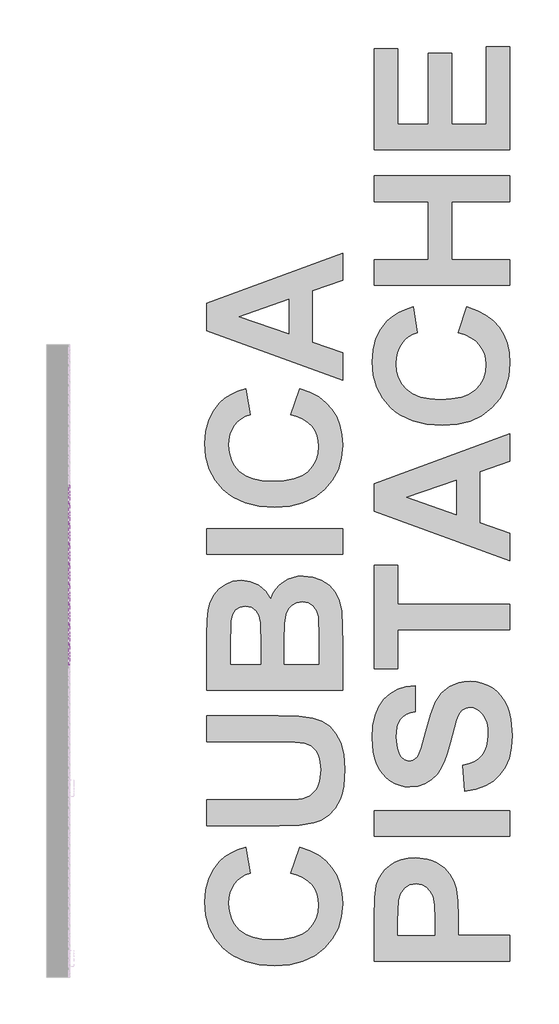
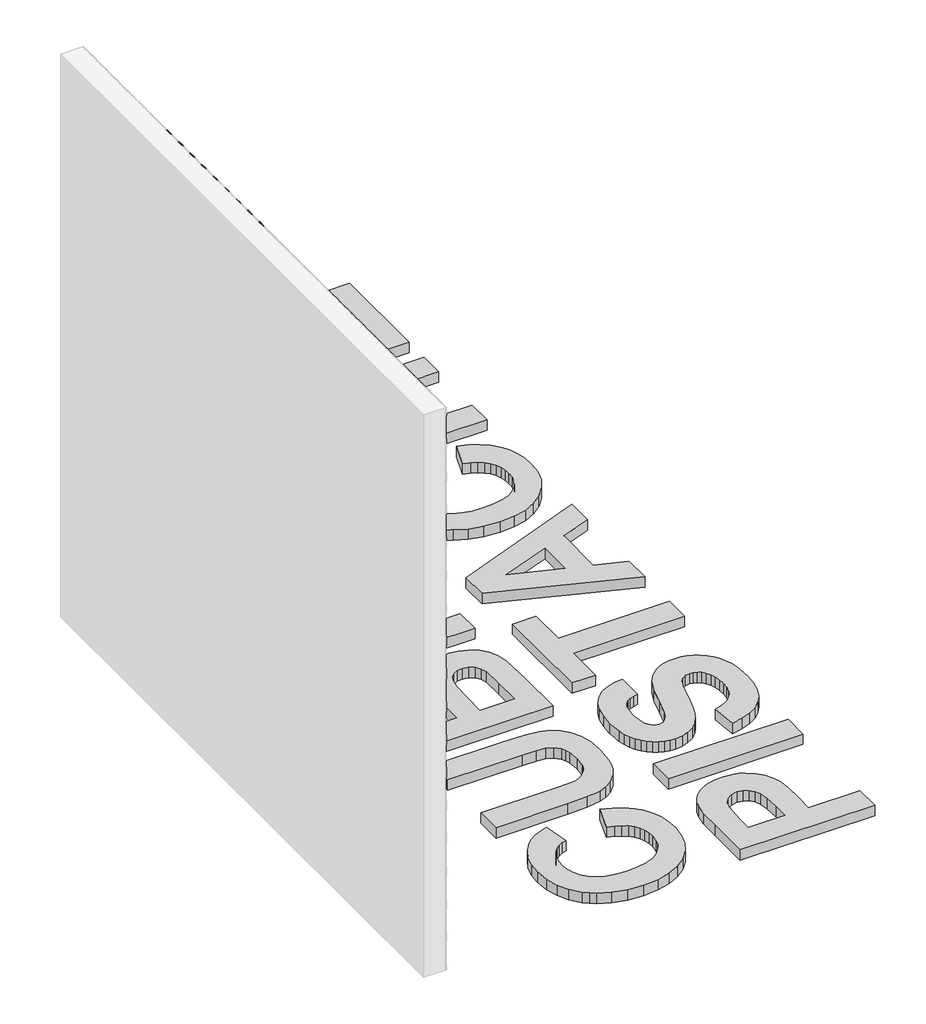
# One storey, part 92 of 121: 91 proxies.
"""IFC4 building model written with IfcOpenShell, lengths in millimetres."""

from ifc_helpers import new_model, si_unit, origin, origin_with_axes, place, context, project, spatial, polyline, outline, extrude, transform, mapped, element, save
from components import generic_models_b2b2c5c1, generic_models_9bf73f6f, generic_models_5d175859, generic_models_95f85f1d, generic_models_336a48c1, generic_models_3c04e8e5, generic_models_01361f29, generic_models_0bb79e7c, generic_models_61989c10, generic_models_b652511d

model = new_model("IFC4")

# Units and contexts
model_context = context("Model", 3, world=origin())
ifc_project = project(units=[si_unit("LENGTHUNIT", "METRE", prefix="MILLI")], contexts=[model_context])

# Site, building, storey
site = spatial("IfcSite", under=ifc_project)
building = spatial("IfcBuilding", under=site)
storey = spatial("IfcBuildingStorey", under=building, Name="PORTOBELLO - SHOWROOM", Elevation=0.0)

# Proxies
placement = place(None, origin())
generic_models_shape = generic_models_b2b2c5c1(model_context)
element("IfcBuildingElementProxy", 1, Name="PBSHOP - CUBICA PISTACHE 4,8X8,3 : CUBICA PISTACHE - POSIÇÃO 01", ObjectType="PBSHOP - CUBICA PISTACHE 4,8X8,3 : CUBICA PISTACHE - POSIÇÃO 01", at=placement, inside=storey, context=model_context, shape_type="MappedRepresentation", body=[
    mapped(generic_models_shape, transform((150369.5341846, 15067.5294767, 39.4221668), x_axis=(0.0, 1.0, 0.0), y_axis=(0.0, 0.0, 1.0), z_axis=(1.0, 0.0, 0.0))),
])
element("IfcBuildingElementProxy", 2, Name="PBSHOP - CUBICA PISTACHE 4,8X8,3 : CUBICA PISTACHE - POSIÇÃO 01", ObjectType="PBSHOP - CUBICA PISTACHE 4,8X8,3 : CUBICA PISTACHE - POSIÇÃO 01", at=placement, inside=storey, context=model_context, shape_type="MappedRepresentation", body=[
    mapped(generic_models_shape, transform((150369.5341846, 15158.3687459, 39.4221668), x_axis=(0.0, 1.0, 0.0), y_axis=(0.0, 0.0, 1.0), z_axis=(1.0, 0.0, 0.0))),
])
element("IfcBuildingElementProxy", 3, Name="PBSHOP - CUBICA PISTACHE 4,8X8,3 : CUBICA PISTACHE - POSIÇÃO 01", ObjectType="PBSHOP - CUBICA PISTACHE 4,8X8,3 : CUBICA PISTACHE - POSIÇÃO 01", at=placement, inside=storey, context=model_context, shape_type="MappedRepresentation", body=[
    mapped(generic_models_shape, transform((150369.5341846, 15249.2080152, 39.4221668), x_axis=(0.0, 1.0, 0.0), y_axis=(0.0, 0.0, 1.0), z_axis=(1.0, 0.0, 0.0))),
])
element("IfcBuildingElementProxy", 4, Name="PBSHOP - CUBICA PISTACHE 4,8X8,3 : CUBICA PISTACHE - POSIÇÃO 01", ObjectType="PBSHOP - CUBICA PISTACHE 4,8X8,3 : CUBICA PISTACHE - POSIÇÃO 01", at=placement, inside=storey, context=model_context, shape_type="MappedRepresentation", body=[
    mapped(generic_models_shape, transform((150369.5341846, 15340.0472844, 39.4221668), x_axis=(0.0, 1.0, 0.0), y_axis=(0.0, 0.0, 1.0), z_axis=(1.0, 0.0, 0.0))),
])
element("IfcBuildingElementProxy", 5, Name="PBSHOP - CUBICA PISTACHE 4,8X8,3 : CUBICA PISTACHE - POSIÇÃO 01", ObjectType="PBSHOP - CUBICA PISTACHE 4,8X8,3 : CUBICA PISTACHE - POSIÇÃO 01", at=placement, inside=storey, context=model_context, shape_type="MappedRepresentation", body=[
    mapped(generic_models_shape, transform((150369.5341846, 15430.8865536, 39.4221668), x_axis=(0.0, 1.0, 0.0), y_axis=(0.0, 0.0, 1.0), z_axis=(1.0, 0.0, 0.0))),
])
element("IfcBuildingElementProxy", 6, Name="PBSHOP - CUBICA PISTACHE 4,8X8,3 : CUBICA PISTACHE - POSIÇÃO 01", ObjectType="PBSHOP - CUBICA PISTACHE 4,8X8,3 : CUBICA PISTACHE - POSIÇÃO 01", at=placement, inside=storey, context=model_context, shape_type="MappedRepresentation", body=[
    mapped(generic_models_shape, transform((150369.5341846, 15521.7258229, 39.4221668), x_axis=(0.0, 1.0, 0.0), y_axis=(0.0, 0.0, 1.0), z_axis=(1.0, 0.0, 0.0))),
])
element("IfcBuildingElementProxy", 7, Name="PBSHOP - CUBICA PISTACHE 4,8X8,3 : CUBICA PISTACHE - POSIÇÃO 01", ObjectType="PBSHOP - CUBICA PISTACHE 4,8X8,3 : CUBICA PISTACHE - POSIÇÃO 01", at=placement, inside=storey, context=model_context, shape_type="MappedRepresentation", body=[
    mapped(generic_models_shape, transform((150369.5341846, 15022.109842, 118.3568052), x_axis=(0.0, 1.0, 0.0), y_axis=(0.0, 0.0, 1.0), z_axis=(1.0, 0.0, 0.0))),
])
element("IfcBuildingElementProxy", 8, Name="PBSHOP - CUBICA PISTACHE 4,8X8,3 : CUBICA PISTACHE - POSIÇÃO 01", ObjectType="PBSHOP - CUBICA PISTACHE 4,8X8,3 : CUBICA PISTACHE - POSIÇÃO 01", at=placement, inside=storey, context=model_context, shape_type="MappedRepresentation", body=[
    mapped(generic_models_shape, transform((150369.5341846, 15112.9491113, 118.3568052), x_axis=(0.0, 1.0, 0.0), y_axis=(0.0, 0.0, 1.0), z_axis=(1.0, 0.0, 0.0))),
])
element("IfcBuildingElementProxy", 9, Name="PBSHOP - CUBICA PISTACHE 4,8X8,3 : CUBICA PISTACHE - POSIÇÃO 01", ObjectType="PBSHOP - CUBICA PISTACHE 4,8X8,3 : CUBICA PISTACHE - POSIÇÃO 01", at=placement, inside=storey, context=model_context, shape_type="MappedRepresentation", body=[
    mapped(generic_models_shape, transform((150369.5341846, 15203.7883805, 118.3568052), x_axis=(0.0, 1.0, 0.0), y_axis=(0.0, 0.0, 1.0), z_axis=(1.0, 0.0, 0.0))),
])
element("IfcBuildingElementProxy", 10, Name="PBSHOP - CUBICA PISTACHE 4,8X8,3 : CUBICA PISTACHE - POSIÇÃO 01", ObjectType="PBSHOP - CUBICA PISTACHE 4,8X8,3 : CUBICA PISTACHE - POSIÇÃO 01", at=placement, inside=storey, context=model_context, shape_type="MappedRepresentation", body=[
    mapped(generic_models_shape, transform((150369.5341846, 15294.6276498, 118.3568052), x_axis=(0.0, 1.0, 0.0), y_axis=(0.0, 0.0, 1.0), z_axis=(1.0, 0.0, 0.0))),
])
element("IfcBuildingElementProxy", 11, Name="PBSHOP - CUBICA PISTACHE 4,8X8,3 : CUBICA PISTACHE - POSIÇÃO 01", ObjectType="PBSHOP - CUBICA PISTACHE 4,8X8,3 : CUBICA PISTACHE - POSIÇÃO 01", at=placement, inside=storey, context=model_context, shape_type="MappedRepresentation", body=[
    mapped(generic_models_shape, transform((150369.5341846, 15385.466919, 118.3568052), x_axis=(0.0, 1.0, 0.0), y_axis=(0.0, 0.0, 1.0), z_axis=(1.0, 0.0, 0.0))),
])
element("IfcBuildingElementProxy", 12, Name="PBSHOP - CUBICA PISTACHE 4,8X8,3 : CUBICA PISTACHE - POSIÇÃO 01", ObjectType="PBSHOP - CUBICA PISTACHE 4,8X8,3 : CUBICA PISTACHE - POSIÇÃO 01", at=placement, inside=storey, context=model_context, shape_type="MappedRepresentation", body=[
    mapped(generic_models_shape, transform((150369.5341846, 15476.3061883, 118.3568052), x_axis=(0.0, 1.0, 0.0), y_axis=(0.0, 0.0, 1.0), z_axis=(1.0, 0.0, 0.0))),
])
element("IfcBuildingElementProxy", 13, Name="PBSHOP - CUBICA PISTACHE 4,8X8,3 : CUBICA PISTACHE - POSIÇÃO 01", ObjectType="PBSHOP - CUBICA PISTACHE 4,8X8,3 : CUBICA PISTACHE - POSIÇÃO 01", at=placement, inside=storey, context=model_context, shape_type="MappedRepresentation", body=[
    mapped(generic_models_shape, transform((150369.5341846, 15567.1454575, 118.3568052), x_axis=(0.0, 1.0, 0.0), y_axis=(0.0, 0.0, 1.0), z_axis=(1.0, 0.0, 0.0))),
])
element("IfcBuildingElementProxy", 14, Name="PBSHOP - CUBICA PISTACHE 4,8X8,3 : CUBICA PISTACHE - POSIÇÃO 01", ObjectType="PBSHOP - CUBICA PISTACHE 4,8X8,3 : CUBICA PISTACHE - POSIÇÃO 01", at=placement, inside=storey, context=model_context, shape_type="MappedRepresentation", body=[
    mapped(generic_models_shape, transform((150369.5341846, 15067.5294767, 197.2914436), x_axis=(0.0, 1.0, 0.0), y_axis=(0.0, 0.0, 1.0), z_axis=(1.0, 0.0, 0.0))),
])
element("IfcBuildingElementProxy", 15, Name="PBSHOP - CUBICA PISTACHE 4,8X8,3 : CUBICA PISTACHE - POSIÇÃO 01", ObjectType="PBSHOP - CUBICA PISTACHE 4,8X8,3 : CUBICA PISTACHE - POSIÇÃO 01", at=placement, inside=storey, context=model_context, shape_type="MappedRepresentation", body=[
    mapped(generic_models_shape, transform((150369.5341846, 15158.3687459, 197.2914436), x_axis=(0.0, 1.0, 0.0), y_axis=(0.0, 0.0, 1.0), z_axis=(1.0, 0.0, 0.0))),
])
element("IfcBuildingElementProxy", 16, Name="PBSHOP - CUBICA PISTACHE 4,8X8,3 : CUBICA PISTACHE - POSIÇÃO 01", ObjectType="PBSHOP - CUBICA PISTACHE 4,8X8,3 : CUBICA PISTACHE - POSIÇÃO 01", at=placement, inside=storey, context=model_context, shape_type="MappedRepresentation", body=[
    mapped(generic_models_shape, transform((150369.5341846, 15249.2080152, 197.2914436), x_axis=(0.0, 1.0, 0.0), y_axis=(0.0, 0.0, 1.0), z_axis=(1.0, 0.0, 0.0))),
])
element("IfcBuildingElementProxy", 17, Name="PBSHOP - CUBICA PISTACHE 4,8X8,3 : CUBICA PISTACHE - POSIÇÃO 01", ObjectType="PBSHOP - CUBICA PISTACHE 4,8X8,3 : CUBICA PISTACHE - POSIÇÃO 01", at=placement, inside=storey, context=model_context, shape_type="MappedRepresentation", body=[
    mapped(generic_models_shape, transform((150369.5341846, 15340.0472844, 197.2914436), x_axis=(0.0, 1.0, 0.0), y_axis=(0.0, 0.0, 1.0), z_axis=(1.0, 0.0, 0.0))),
])
element("IfcBuildingElementProxy", 18, Name="PBSHOP - CUBICA PISTACHE 4,8X8,3 : CUBICA PISTACHE - POSIÇÃO 01", ObjectType="PBSHOP - CUBICA PISTACHE 4,8X8,3 : CUBICA PISTACHE - POSIÇÃO 01", at=placement, inside=storey, context=model_context, shape_type="MappedRepresentation", body=[
    mapped(generic_models_shape, transform((150369.5341846, 15430.8865536, 197.2914436), x_axis=(0.0, 1.0, 0.0), y_axis=(0.0, 0.0, 1.0), z_axis=(1.0, 0.0, 0.0))),
])
element("IfcBuildingElementProxy", 19, Name="PBSHOP - CUBICA PISTACHE 4,8X8,3 : CUBICA PISTACHE - POSIÇÃO 01", ObjectType="PBSHOP - CUBICA PISTACHE 4,8X8,3 : CUBICA PISTACHE - POSIÇÃO 01", at=placement, inside=storey, context=model_context, shape_type="MappedRepresentation", body=[
    mapped(generic_models_shape, transform((150369.5341846, 15521.7258229, 197.2914436), x_axis=(0.0, 1.0, 0.0), y_axis=(0.0, 0.0, 1.0), z_axis=(1.0, 0.0, 0.0))),
])
element("IfcBuildingElementProxy", 20, Name="PBSHOP - CUBICA PISTACHE 4,8X8,3 : CUBICA PISTACHE - POSIÇÃO 01", ObjectType="PBSHOP - CUBICA PISTACHE 4,8X8,3 : CUBICA PISTACHE - POSIÇÃO 01", at=placement, inside=storey, context=model_context, shape_type="MappedRepresentation", body=[
    mapped(generic_models_shape, transform((150369.5341846, 15022.109842, 276.2260819), x_axis=(0.0, 1.0, 0.0), y_axis=(0.0, 0.0, 1.0), z_axis=(1.0, 0.0, 0.0))),
])
element("IfcBuildingElementProxy", 21, Name="PBSHOP - CUBICA PISTACHE 4,8X8,3 : CUBICA PISTACHE - POSIÇÃO 01", ObjectType="PBSHOP - CUBICA PISTACHE 4,8X8,3 : CUBICA PISTACHE - POSIÇÃO 01", at=placement, inside=storey, context=model_context, shape_type="MappedRepresentation", body=[
    mapped(generic_models_shape, transform((150369.5341846, 15112.9491113, 276.2260819), x_axis=(0.0, 1.0, 0.0), y_axis=(0.0, 0.0, 1.0), z_axis=(1.0, 0.0, 0.0))),
])
element("IfcBuildingElementProxy", 22, Name="PBSHOP - CUBICA PISTACHE 4,8X8,3 : CUBICA PISTACHE - POSIÇÃO 01", ObjectType="PBSHOP - CUBICA PISTACHE 4,8X8,3 : CUBICA PISTACHE - POSIÇÃO 01", at=placement, inside=storey, context=model_context, shape_type="MappedRepresentation", body=[
    mapped(generic_models_shape, transform((150369.5341846, 15203.7883805, 276.2260819), x_axis=(0.0, 1.0, 0.0), y_axis=(0.0, 0.0, 1.0), z_axis=(1.0, 0.0, 0.0))),
])
element("IfcBuildingElementProxy", 23, Name="PBSHOP - CUBICA PISTACHE 4,8X8,3 : CUBICA PISTACHE - POSIÇÃO 01", ObjectType="PBSHOP - CUBICA PISTACHE 4,8X8,3 : CUBICA PISTACHE - POSIÇÃO 01", at=placement, inside=storey, context=model_context, shape_type="MappedRepresentation", body=[
    mapped(generic_models_shape, transform((150369.5341846, 15294.6276498, 276.2260819), x_axis=(0.0, 1.0, 0.0), y_axis=(0.0, 0.0, 1.0), z_axis=(1.0, 0.0, 0.0))),
])
element("IfcBuildingElementProxy", 24, Name="PBSHOP - CUBICA PISTACHE 4,8X8,3 : CUBICA PISTACHE - POSIÇÃO 01", ObjectType="PBSHOP - CUBICA PISTACHE 4,8X8,3 : CUBICA PISTACHE - POSIÇÃO 01", at=placement, inside=storey, context=model_context, shape_type="MappedRepresentation", body=[
    mapped(generic_models_shape, transform((150369.5341846, 15385.466919, 276.2260819), x_axis=(0.0, 1.0, 0.0), y_axis=(0.0, 0.0, 1.0), z_axis=(1.0, 0.0, 0.0))),
])
element("IfcBuildingElementProxy", 25, Name="PBSHOP - CUBICA PISTACHE 4,8X8,3 : CUBICA PISTACHE - POSIÇÃO 01", ObjectType="PBSHOP - CUBICA PISTACHE 4,8X8,3 : CUBICA PISTACHE - POSIÇÃO 01", at=placement, inside=storey, context=model_context, shape_type="MappedRepresentation", body=[
    mapped(generic_models_shape, transform((150369.5341846, 15476.3061883, 276.2260819), x_axis=(0.0, 1.0, 0.0), y_axis=(0.0, 0.0, 1.0), z_axis=(1.0, 0.0, 0.0))),
])
element("IfcBuildingElementProxy", 26, Name="PBSHOP - CUBICA PISTACHE 4,8X8,3 : CUBICA PISTACHE - POSIÇÃO 01", ObjectType="PBSHOP - CUBICA PISTACHE 4,8X8,3 : CUBICA PISTACHE - POSIÇÃO 01", at=placement, inside=storey, context=model_context, shape_type="MappedRepresentation", body=[
    mapped(generic_models_shape, transform((150369.5341846, 15567.1454575, 276.2260819), x_axis=(0.0, 1.0, 0.0), y_axis=(0.0, 0.0, 1.0), z_axis=(1.0, 0.0, 0.0))),
])
generic_models_2_shape = generic_models_9bf73f6f(model_context)
element("IfcBuildingElementProxy", 27, Name="PBSHOP - CUBICA PISTACHE 4,8X8,3 : CUBICA PISTACHE - POSIÇÃO 03", ObjectType="PBSHOP - CUBICA PISTACHE 4,8X8,3 : CUBICA PISTACHE - POSIÇÃO 03", at=placement, inside=storey, context=model_context, shape_type="MappedRepresentation", body=[
    mapped(generic_models_2_shape, transform((150369.5341846, 15090.2414531, 78.8482756), x_axis=(0.0, 1.0, 0.0), y_axis=(0.0, 0.0, 1.0), z_axis=(1.0, 0.0, 0.0))),
])
element("IfcBuildingElementProxy", 28, Name="PBSHOP - CUBICA PISTACHE 4,8X8,3 : CUBICA PISTACHE - POSIÇÃO 03", ObjectType="PBSHOP - CUBICA PISTACHE 4,8X8,3 : CUBICA PISTACHE - POSIÇÃO 03", at=placement, inside=storey, context=model_context, shape_type="MappedRepresentation", body=[
    mapped(generic_models_2_shape, transform((150369.5341846, 15181.0807224, 78.8482756), x_axis=(0.0, 1.0, 0.0), y_axis=(0.0, 0.0, 1.0), z_axis=(1.0, 0.0, 0.0))),
])
element("IfcBuildingElementProxy", 29, Name="PBSHOP - CUBICA PISTACHE 4,8X8,3 : CUBICA PISTACHE - POSIÇÃO 03", ObjectType="PBSHOP - CUBICA PISTACHE 4,8X8,3 : CUBICA PISTACHE - POSIÇÃO 03", at=placement, inside=storey, context=model_context, shape_type="MappedRepresentation", body=[
    mapped(generic_models_2_shape, transform((150369.5341846, 15271.9199916, 78.8482756), x_axis=(0.0, 1.0, 0.0), y_axis=(0.0, 0.0, 1.0), z_axis=(1.0, 0.0, 0.0))),
])
element("IfcBuildingElementProxy", 30, Name="PBSHOP - CUBICA PISTACHE 4,8X8,3 : CUBICA PISTACHE - POSIÇÃO 03", ObjectType="PBSHOP - CUBICA PISTACHE 4,8X8,3 : CUBICA PISTACHE - POSIÇÃO 03", at=placement, inside=storey, context=model_context, shape_type="MappedRepresentation", body=[
    mapped(generic_models_2_shape, transform((150369.5341846, 15362.7592609, 78.8482756), x_axis=(0.0, 1.0, 0.0), y_axis=(0.0, 0.0, 1.0), z_axis=(1.0, 0.0, 0.0))),
])
element("IfcBuildingElementProxy", 31, Name="PBSHOP - CUBICA PISTACHE 4,8X8,3 : CUBICA PISTACHE - POSIÇÃO 03", ObjectType="PBSHOP - CUBICA PISTACHE 4,8X8,3 : CUBICA PISTACHE - POSIÇÃO 03", at=placement, inside=storey, context=model_context, shape_type="MappedRepresentation", body=[
    mapped(generic_models_2_shape, transform((150369.5341846, 15453.5985301, 78.8482756), x_axis=(0.0, 1.0, 0.0), y_axis=(0.0, 0.0, 1.0), z_axis=(1.0, 0.0, 0.0))),
])
element("IfcBuildingElementProxy", 32, Name="PBSHOP - CUBICA PISTACHE 4,8X8,3 : CUBICA PISTACHE - POSIÇÃO 03", ObjectType="PBSHOP - CUBICA PISTACHE 4,8X8,3 : CUBICA PISTACHE - POSIÇÃO 03", at=placement, inside=storey, context=model_context, shape_type="MappedRepresentation", body=[
    mapped(generic_models_2_shape, transform((150369.5341846, 15544.4377994, 78.8482756), x_axis=(0.0, 1.0, 0.0), y_axis=(0.0, 0.0, 1.0), z_axis=(1.0, 0.0, 0.0))),
])
element("IfcBuildingElementProxy", 33, Name="PBSHOP - CUBICA PISTACHE 4,8X8,3 : CUBICA PISTACHE - POSIÇÃO 03", ObjectType="PBSHOP - CUBICA PISTACHE 4,8X8,3 : CUBICA PISTACHE - POSIÇÃO 03", at=placement, inside=storey, context=model_context, shape_type="MappedRepresentation", body=[
    mapped(generic_models_2_shape, transform((150369.5341846, 15044.8218185, 157.7829139), x_axis=(0.0, 1.0, 0.0), y_axis=(0.0, 0.0, 1.0), z_axis=(1.0, 0.0, 0.0))),
])
element("IfcBuildingElementProxy", 34, Name="PBSHOP - CUBICA PISTACHE 4,8X8,3 : CUBICA PISTACHE - POSIÇÃO 03", ObjectType="PBSHOP - CUBICA PISTACHE 4,8X8,3 : CUBICA PISTACHE - POSIÇÃO 03", at=placement, inside=storey, context=model_context, shape_type="MappedRepresentation", body=[
    mapped(generic_models_2_shape, transform((150369.5341846, 15135.6610878, 157.7829139), x_axis=(0.0, 1.0, 0.0), y_axis=(0.0, 0.0, 1.0), z_axis=(1.0, 0.0, 0.0))),
])
element("IfcBuildingElementProxy", 35, Name="PBSHOP - CUBICA PISTACHE 4,8X8,3 : CUBICA PISTACHE - POSIÇÃO 03", ObjectType="PBSHOP - CUBICA PISTACHE 4,8X8,3 : CUBICA PISTACHE - POSIÇÃO 03", at=placement, inside=storey, context=model_context, shape_type="MappedRepresentation", body=[
    mapped(generic_models_2_shape, transform((150369.5341846, 15226.500357, 157.7829139), x_axis=(0.0, 1.0, 0.0), y_axis=(0.0, 0.0, 1.0), z_axis=(1.0, 0.0, 0.0))),
])
element("IfcBuildingElementProxy", 36, Name="PBSHOP - CUBICA PISTACHE 4,8X8,3 : CUBICA PISTACHE - POSIÇÃO 03", ObjectType="PBSHOP - CUBICA PISTACHE 4,8X8,3 : CUBICA PISTACHE - POSIÇÃO 03", at=placement, inside=storey, context=model_context, shape_type="MappedRepresentation", body=[
    mapped(generic_models_2_shape, transform((150369.5341846, 15317.3396263, 157.7829139), x_axis=(0.0, 1.0, 0.0), y_axis=(0.0, 0.0, 1.0), z_axis=(1.0, 0.0, 0.0))),
])
element("IfcBuildingElementProxy", 37, Name="PBSHOP - CUBICA PISTACHE 4,8X8,3 : CUBICA PISTACHE - POSIÇÃO 03", ObjectType="PBSHOP - CUBICA PISTACHE 4,8X8,3 : CUBICA PISTACHE - POSIÇÃO 03", at=placement, inside=storey, context=model_context, shape_type="MappedRepresentation", body=[
    mapped(generic_models_2_shape, transform((150369.5341846, 15408.1788955, 157.7829139), x_axis=(0.0, 1.0, 0.0), y_axis=(0.0, 0.0, 1.0), z_axis=(1.0, 0.0, 0.0))),
])
element("IfcBuildingElementProxy", 38, Name="PBSHOP - CUBICA PISTACHE 4,8X8,3 : CUBICA PISTACHE - POSIÇÃO 03", ObjectType="PBSHOP - CUBICA PISTACHE 4,8X8,3 : CUBICA PISTACHE - POSIÇÃO 03", at=placement, inside=storey, context=model_context, shape_type="MappedRepresentation", body=[
    mapped(generic_models_2_shape, transform((150369.5341846, 15499.0181647, 157.7829139), x_axis=(0.0, 1.0, 0.0), y_axis=(0.0, 0.0, 1.0), z_axis=(1.0, 0.0, 0.0))),
])
element("IfcBuildingElementProxy", 39, Name="PBSHOP - CUBICA PISTACHE 4,8X8,3 : CUBICA PISTACHE - POSIÇÃO 03", ObjectType="PBSHOP - CUBICA PISTACHE 4,8X8,3 : CUBICA PISTACHE - POSIÇÃO 03", at=placement, inside=storey, context=model_context, shape_type="MappedRepresentation", body=[
    mapped(generic_models_2_shape, transform((150369.5341846, 15090.2414531, 236.7175523), x_axis=(0.0, 1.0, 0.0), y_axis=(0.0, 0.0, 1.0), z_axis=(1.0, 0.0, 0.0))),
])
element("IfcBuildingElementProxy", 40, Name="PBSHOP - CUBICA PISTACHE 4,8X8,3 : CUBICA PISTACHE - POSIÇÃO 03", ObjectType="PBSHOP - CUBICA PISTACHE 4,8X8,3 : CUBICA PISTACHE - POSIÇÃO 03", at=placement, inside=storey, context=model_context, shape_type="MappedRepresentation", body=[
    mapped(generic_models_2_shape, transform((150369.5341846, 15181.0807224, 236.7175523), x_axis=(0.0, 1.0, 0.0), y_axis=(0.0, 0.0, 1.0), z_axis=(1.0, 0.0, 0.0))),
])
element("IfcBuildingElementProxy", 41, Name="PBSHOP - CUBICA PISTACHE 4,8X8,3 : CUBICA PISTACHE - POSIÇÃO 03", ObjectType="PBSHOP - CUBICA PISTACHE 4,8X8,3 : CUBICA PISTACHE - POSIÇÃO 03", at=placement, inside=storey, context=model_context, shape_type="MappedRepresentation", body=[
    mapped(generic_models_2_shape, transform((150369.5341846, 15271.9199916, 236.7175523), x_axis=(0.0, 1.0, 0.0), y_axis=(0.0, 0.0, 1.0), z_axis=(1.0, 0.0, 0.0))),
])
element("IfcBuildingElementProxy", 42, Name="PBSHOP - CUBICA PISTACHE 4,8X8,3 : CUBICA PISTACHE - POSIÇÃO 03", ObjectType="PBSHOP - CUBICA PISTACHE 4,8X8,3 : CUBICA PISTACHE - POSIÇÃO 03", at=placement, inside=storey, context=model_context, shape_type="MappedRepresentation", body=[
    mapped(generic_models_2_shape, transform((150369.5341846, 15362.7592609, 236.7175523), x_axis=(0.0, 1.0, 0.0), y_axis=(0.0, 0.0, 1.0), z_axis=(1.0, 0.0, 0.0))),
])
generic_models_3_shape = generic_models_5d175859(model_context)
element("IfcBuildingElementProxy", 43, Name="PBSHOP - CUBICA PISTACHE 4,8X8,3 : CUBICA PISTACHE - POSIÇÃO 01", ObjectType="PBSHOP - CUBICA PISTACHE 4,8X8,3 : CUBICA PISTACHE - POSIÇÃO 01", at=placement, inside=storey, context=model_context, shape_type="MappedRepresentation", body=[
    mapped(generic_models_3_shape, transform((150369.5341846, 15022.1141604, 39.4221668), x_axis=(0.0, -1.0, 0.0), y_axis=(0.0, 0.0, -1.0), z_axis=(1.0, 0.0, 0.0))),
])
element("IfcBuildingElementProxy", 44, Name="PBSHOP - CUBICA PISTACHE 4,8X8,3 : CUBICA PISTACHE - POSIÇÃO 01", ObjectType="PBSHOP - CUBICA PISTACHE 4,8X8,3 : CUBICA PISTACHE - POSIÇÃO 01", at=placement, inside=storey, context=model_context, shape_type="MappedRepresentation", body=[
    mapped(generic_models_3_shape, transform((150369.5341846, 15112.9534296, 39.4221668), x_axis=(0.0, -1.0, 0.0), y_axis=(0.0, 0.0, -1.0), z_axis=(1.0, 0.0, 0.0))),
])
element("IfcBuildingElementProxy", 45, Name="PBSHOP - CUBICA PISTACHE 4,8X8,3 : CUBICA PISTACHE - POSIÇÃO 01", ObjectType="PBSHOP - CUBICA PISTACHE 4,8X8,3 : CUBICA PISTACHE - POSIÇÃO 01", at=placement, inside=storey, context=model_context, shape_type="MappedRepresentation", body=[
    mapped(generic_models_3_shape, transform((150369.5341846, 15203.7926989, 39.4221668), x_axis=(0.0, -1.0, 0.0), y_axis=(0.0, 0.0, -1.0), z_axis=(1.0, 0.0, 0.0))),
])
element("IfcBuildingElementProxy", 46, Name="PBSHOP - CUBICA PISTACHE 4,8X8,3 : CUBICA PISTACHE - POSIÇÃO 01", ObjectType="PBSHOP - CUBICA PISTACHE 4,8X8,3 : CUBICA PISTACHE - POSIÇÃO 01", at=placement, inside=storey, context=model_context, shape_type="MappedRepresentation", body=[
    mapped(generic_models_3_shape, transform((150369.5341846, 15294.6319681, 39.4221668), x_axis=(0.0, -1.0, 0.0), y_axis=(0.0, 0.0, -1.0), z_axis=(1.0, 0.0, 0.0))),
])
element("IfcBuildingElementProxy", 47, Name="PBSHOP - CUBICA PISTACHE 4,8X8,3 : CUBICA PISTACHE - POSIÇÃO 01", ObjectType="PBSHOP - CUBICA PISTACHE 4,8X8,3 : CUBICA PISTACHE - POSIÇÃO 01", at=placement, inside=storey, context=model_context, shape_type="MappedRepresentation", body=[
    mapped(generic_models_3_shape, transform((150369.5341846, 15385.4712374, 39.4221668), x_axis=(0.0, -1.0, 0.0), y_axis=(0.0, 0.0, -1.0), z_axis=(1.0, 0.0, 0.0))),
])
element("IfcBuildingElementProxy", 48, Name="PBSHOP - CUBICA PISTACHE 4,8X8,3 : CUBICA PISTACHE - POSIÇÃO 01", ObjectType="PBSHOP - CUBICA PISTACHE 4,8X8,3 : CUBICA PISTACHE - POSIÇÃO 01", at=placement, inside=storey, context=model_context, shape_type="MappedRepresentation", body=[
    mapped(generic_models_3_shape, transform((150369.5341846, 15476.3105066, 39.4221668), x_axis=(0.0, -1.0, 0.0), y_axis=(0.0, 0.0, -1.0), z_axis=(1.0, 0.0, 0.0))),
])
element("IfcBuildingElementProxy", 49, Name="PBSHOP - CUBICA PISTACHE 4,8X8,3 : CUBICA PISTACHE - POSIÇÃO 01", ObjectType="PBSHOP - CUBICA PISTACHE 4,8X8,3 : CUBICA PISTACHE - POSIÇÃO 01", at=placement, inside=storey, context=model_context, shape_type="MappedRepresentation", body=[
    mapped(generic_models_3_shape, transform((150369.5341846, 15567.1497758, 39.4221668), x_axis=(0.0, -1.0, 0.0), y_axis=(0.0, 0.0, -1.0), z_axis=(1.0, 0.0, 0.0))),
])
element("IfcBuildingElementProxy", 50, Name="PBSHOP - CUBICA PISTACHE 4,8X8,3 : CUBICA PISTACHE - POSIÇÃO 01", ObjectType="PBSHOP - CUBICA PISTACHE 4,8X8,3 : CUBICA PISTACHE - POSIÇÃO 01", at=placement, inside=storey, context=model_context, shape_type="MappedRepresentation", body=[
    mapped(generic_models_3_shape, transform((150369.5341846, 15067.533795, 118.3568052), x_axis=(0.0, -1.0, 0.0), y_axis=(0.0, 0.0, -1.0), z_axis=(1.0, 0.0, 0.0))),
])
element("IfcBuildingElementProxy", 51, Name="PBSHOP - CUBICA PISTACHE 4,8X8,3 : CUBICA PISTACHE - POSIÇÃO 01", ObjectType="PBSHOP - CUBICA PISTACHE 4,8X8,3 : CUBICA PISTACHE - POSIÇÃO 01", at=placement, inside=storey, context=model_context, shape_type="MappedRepresentation", body=[
    mapped(generic_models_3_shape, transform((150369.5341846, 15158.3730642, 118.3568052), x_axis=(0.0, -1.0, 0.0), y_axis=(0.0, 0.0, -1.0), z_axis=(1.0, 0.0, 0.0))),
])
element("IfcBuildingElementProxy", 52, Name="PBSHOP - CUBICA PISTACHE 4,8X8,3 : CUBICA PISTACHE - POSIÇÃO 01", ObjectType="PBSHOP - CUBICA PISTACHE 4,8X8,3 : CUBICA PISTACHE - POSIÇÃO 01", at=placement, inside=storey, context=model_context, shape_type="MappedRepresentation", body=[
    mapped(generic_models_3_shape, transform((150369.5341846, 15249.2123335, 118.3568052), x_axis=(0.0, -1.0, 0.0), y_axis=(0.0, 0.0, -1.0), z_axis=(1.0, 0.0, 0.0))),
])
element("IfcBuildingElementProxy", 53, Name="PBSHOP - CUBICA PISTACHE 4,8X8,3 : CUBICA PISTACHE - POSIÇÃO 01", ObjectType="PBSHOP - CUBICA PISTACHE 4,8X8,3 : CUBICA PISTACHE - POSIÇÃO 01", at=placement, inside=storey, context=model_context, shape_type="MappedRepresentation", body=[
    mapped(generic_models_3_shape, transform((150369.5341846, 15340.0516027, 118.3568052), x_axis=(0.0, -1.0, 0.0), y_axis=(0.0, 0.0, -1.0), z_axis=(1.0, 0.0, 0.0))),
])
element("IfcBuildingElementProxy", 54, Name="PBSHOP - CUBICA PISTACHE 4,8X8,3 : CUBICA PISTACHE - POSIÇÃO 01", ObjectType="PBSHOP - CUBICA PISTACHE 4,8X8,3 : CUBICA PISTACHE - POSIÇÃO 01", at=placement, inside=storey, context=model_context, shape_type="MappedRepresentation", body=[
    mapped(generic_models_3_shape, transform((150369.5341846, 15430.890872, 118.3568052), x_axis=(0.0, -1.0, 0.0), y_axis=(0.0, 0.0, -1.0), z_axis=(1.0, 0.0, 0.0))),
])
element("IfcBuildingElementProxy", 55, Name="PBSHOP - CUBICA PISTACHE 4,8X8,3 : CUBICA PISTACHE - POSIÇÃO 01", ObjectType="PBSHOP - CUBICA PISTACHE 4,8X8,3 : CUBICA PISTACHE - POSIÇÃO 01", at=placement, inside=storey, context=model_context, shape_type="MappedRepresentation", body=[
    mapped(generic_models_3_shape, transform((150369.5341846, 15521.7301412, 118.3568052), x_axis=(0.0, -1.0, 0.0), y_axis=(0.0, 0.0, -1.0), z_axis=(1.0, 0.0, 0.0))),
])
element("IfcBuildingElementProxy", 56, Name="PBSHOP - CUBICA PISTACHE 4,8X8,3 : CUBICA PISTACHE - POSIÇÃO 01", ObjectType="PBSHOP - CUBICA PISTACHE 4,8X8,3 : CUBICA PISTACHE - POSIÇÃO 01", at=placement, inside=storey, context=model_context, shape_type="MappedRepresentation", body=[
    mapped(generic_models_3_shape, transform((150369.5341846, 15022.1141604, 197.2914436), x_axis=(0.0, -1.0, 0.0), y_axis=(0.0, 0.0, -1.0), z_axis=(1.0, 0.0, 0.0))),
])
element("IfcBuildingElementProxy", 57, Name="PBSHOP - CUBICA PISTACHE 4,8X8,3 : CUBICA PISTACHE - POSIÇÃO 01", ObjectType="PBSHOP - CUBICA PISTACHE 4,8X8,3 : CUBICA PISTACHE - POSIÇÃO 01", at=placement, inside=storey, context=model_context, shape_type="MappedRepresentation", body=[
    mapped(generic_models_3_shape, transform((150369.5341846, 15112.9534296, 197.2914436), x_axis=(0.0, -1.0, 0.0), y_axis=(0.0, 0.0, -1.0), z_axis=(1.0, 0.0, 0.0))),
])
element("IfcBuildingElementProxy", 58, Name="PBSHOP - CUBICA PISTACHE 4,8X8,3 : CUBICA PISTACHE - POSIÇÃO 01", ObjectType="PBSHOP - CUBICA PISTACHE 4,8X8,3 : CUBICA PISTACHE - POSIÇÃO 01", at=placement, inside=storey, context=model_context, shape_type="MappedRepresentation", body=[
    mapped(generic_models_3_shape, transform((150369.5341846, 15203.7926989, 197.2914436), x_axis=(0.0, -1.0, 0.0), y_axis=(0.0, 0.0, -1.0), z_axis=(1.0, 0.0, 0.0))),
])
element("IfcBuildingElementProxy", 59, Name="PBSHOP - CUBICA PISTACHE 4,8X8,3 : CUBICA PISTACHE - POSIÇÃO 01", ObjectType="PBSHOP - CUBICA PISTACHE 4,8X8,3 : CUBICA PISTACHE - POSIÇÃO 01", at=placement, inside=storey, context=model_context, shape_type="MappedRepresentation", body=[
    mapped(generic_models_3_shape, transform((150369.5341846, 15294.6319681, 197.2914436), x_axis=(0.0, -1.0, 0.0), y_axis=(0.0, 0.0, -1.0), z_axis=(1.0, 0.0, 0.0))),
])
element("IfcBuildingElementProxy", 60, Name="PBSHOP - CUBICA PISTACHE 4,8X8,3 : CUBICA PISTACHE - POSIÇÃO 01", ObjectType="PBSHOP - CUBICA PISTACHE 4,8X8,3 : CUBICA PISTACHE - POSIÇÃO 01", at=placement, inside=storey, context=model_context, shape_type="MappedRepresentation", body=[
    mapped(generic_models_3_shape, transform((150369.5341846, 15385.4712374, 197.2914436), x_axis=(0.0, -1.0, 0.0), y_axis=(0.0, 0.0, -1.0), z_axis=(1.0, 0.0, 0.0))),
])
element("IfcBuildingElementProxy", 61, Name="PBSHOP - CUBICA PISTACHE 4,8X8,3 : CUBICA PISTACHE - POSIÇÃO 01", ObjectType="PBSHOP - CUBICA PISTACHE 4,8X8,3 : CUBICA PISTACHE - POSIÇÃO 01", at=placement, inside=storey, context=model_context, shape_type="MappedRepresentation", body=[
    mapped(generic_models_3_shape, transform((150369.5341846, 15476.3105066, 197.2914436), x_axis=(0.0, -1.0, 0.0), y_axis=(0.0, 0.0, -1.0), z_axis=(1.0, 0.0, 0.0))),
])
element("IfcBuildingElementProxy", 62, Name="PBSHOP - CUBICA PISTACHE 4,8X8,3 : CUBICA PISTACHE - POSIÇÃO 01", ObjectType="PBSHOP - CUBICA PISTACHE 4,8X8,3 : CUBICA PISTACHE - POSIÇÃO 01", at=placement, inside=storey, context=model_context, shape_type="MappedRepresentation", body=[
    mapped(generic_models_3_shape, transform((150369.5341846, 15567.1497758, 197.2914436), x_axis=(0.0, -1.0, 0.0), y_axis=(0.0, 0.0, -1.0), z_axis=(1.0, 0.0, 0.0))),
])
element("IfcBuildingElementProxy", 63, Name="PBSHOP - CUBICA PISTACHE 4,8X8,3 : CUBICA PISTACHE - POSIÇÃO 01", ObjectType="PBSHOP - CUBICA PISTACHE 4,8X8,3 : CUBICA PISTACHE - POSIÇÃO 01", at=placement, inside=storey, context=model_context, shape_type="MappedRepresentation", body=[
    mapped(generic_models_3_shape, transform((150369.5341846, 15067.533795, 276.2260819), x_axis=(0.0, -1.0, 0.0), y_axis=(0.0, 0.0, -1.0), z_axis=(1.0, 0.0, 0.0))),
])
element("IfcBuildingElementProxy", 64, Name="PBSHOP - CUBICA PISTACHE 4,8X8,3 : CUBICA PISTACHE - POSIÇÃO 01", ObjectType="PBSHOP - CUBICA PISTACHE 4,8X8,3 : CUBICA PISTACHE - POSIÇÃO 01", at=placement, inside=storey, context=model_context, shape_type="MappedRepresentation", body=[
    mapped(generic_models_3_shape, transform((150369.5341846, 15158.3730642, 276.2260819), x_axis=(0.0, -1.0, 0.0), y_axis=(0.0, 0.0, -1.0), z_axis=(1.0, 0.0, 0.0))),
])
element("IfcBuildingElementProxy", 65, Name="PBSHOP - CUBICA PISTACHE 4,8X8,3 : CUBICA PISTACHE - POSIÇÃO 01", ObjectType="PBSHOP - CUBICA PISTACHE 4,8X8,3 : CUBICA PISTACHE - POSIÇÃO 01", at=placement, inside=storey, context=model_context, shape_type="MappedRepresentation", body=[
    mapped(generic_models_3_shape, transform((150369.5341846, 15249.2123335, 276.2260819), x_axis=(0.0, -1.0, 0.0), y_axis=(0.0, 0.0, -1.0), z_axis=(1.0, 0.0, 0.0))),
])
element("IfcBuildingElementProxy", 66, Name="PBSHOP - CUBICA PISTACHE 4,8X8,3 : CUBICA PISTACHE - POSIÇÃO 01", ObjectType="PBSHOP - CUBICA PISTACHE 4,8X8,3 : CUBICA PISTACHE - POSIÇÃO 01", at=placement, inside=storey, context=model_context, shape_type="MappedRepresentation", body=[
    mapped(generic_models_3_shape, transform((150369.5341846, 15340.0516027, 276.2260819), x_axis=(0.0, -1.0, 0.0), y_axis=(0.0, 0.0, -1.0), z_axis=(1.0, 0.0, 0.0))),
])
element("IfcBuildingElementProxy", 67, Name="PBSHOP - CUBICA PISTACHE 4,8X8,3 : CUBICA PISTACHE - POSIÇÃO 01", ObjectType="PBSHOP - CUBICA PISTACHE 4,8X8,3 : CUBICA PISTACHE - POSIÇÃO 01", at=placement, inside=storey, context=model_context, shape_type="MappedRepresentation", body=[
    mapped(generic_models_3_shape, transform((150369.5341846, 15430.890872, 276.2260819), x_axis=(0.0, -1.0, 0.0), y_axis=(0.0, 0.0, -1.0), z_axis=(1.0, 0.0, 0.0))),
])
element("IfcBuildingElementProxy", 68, Name="PBSHOP - CUBICA PISTACHE 4,8X8,3 : CUBICA PISTACHE - POSIÇÃO 01", ObjectType="PBSHOP - CUBICA PISTACHE 4,8X8,3 : CUBICA PISTACHE - POSIÇÃO 01", at=placement, inside=storey, context=model_context, shape_type="MappedRepresentation", body=[
    mapped(generic_models_3_shape, transform((150369.5341846, 15521.7301412, 276.2260819), x_axis=(0.0, -1.0, 0.0), y_axis=(0.0, 0.0, -1.0), z_axis=(1.0, 0.0, 0.0))),
])
generic_models_4_shape = generic_models_95f85f1d(model_context)
element("IfcBuildingElementProxy", 69, Name="PBSHOP - CUBICA PISTACHE 4,8X8,3 : CUBICA PISTACHE - POSIÇÃO 03", ObjectType="PBSHOP - CUBICA PISTACHE 4,8X8,3 : CUBICA PISTACHE - POSIÇÃO 03", at=placement, inside=storey, context=model_context, shape_type="MappedRepresentation", body=[
    mapped(generic_models_4_shape, transform((150369.5341846, 15044.8218185, -0.0863628), x_axis=(0.0, 1.0, 0.0), y_axis=(0.0, 0.0, 1.0), z_axis=(1.0, 0.0, 0.0))),
])
element("IfcBuildingElementProxy", 70, Name="PBSHOP - CUBICA PISTACHE 4,8X8,3 : CUBICA PISTACHE - POSIÇÃO 03", ObjectType="PBSHOP - CUBICA PISTACHE 4,8X8,3 : CUBICA PISTACHE - POSIÇÃO 03", at=placement, inside=storey, context=model_context, shape_type="MappedRepresentation", body=[
    mapped(generic_models_4_shape, transform((150369.5341846, 15135.6610878, -0.0863628), x_axis=(0.0, 1.0, 0.0), y_axis=(0.0, 0.0, 1.0), z_axis=(1.0, 0.0, 0.0))),
])
element("IfcBuildingElementProxy", 71, Name="PBSHOP - CUBICA PISTACHE 4,8X8,3 : CUBICA PISTACHE - POSIÇÃO 03", ObjectType="PBSHOP - CUBICA PISTACHE 4,8X8,3 : CUBICA PISTACHE - POSIÇÃO 03", at=placement, inside=storey, context=model_context, shape_type="MappedRepresentation", body=[
    mapped(generic_models_4_shape, transform((150369.5341846, 15226.500357, -0.0863628), x_axis=(0.0, 1.0, 0.0), y_axis=(0.0, 0.0, 1.0), z_axis=(1.0, 0.0, 0.0))),
])
element("IfcBuildingElementProxy", 72, Name="PBSHOP - CUBICA PISTACHE 4,8X8,3 : CUBICA PISTACHE - POSIÇÃO 03", ObjectType="PBSHOP - CUBICA PISTACHE 4,8X8,3 : CUBICA PISTACHE - POSIÇÃO 03", at=placement, inside=storey, context=model_context, shape_type="MappedRepresentation", body=[
    mapped(generic_models_4_shape, transform((150369.5341846, 15317.3396263, -0.0863628), x_axis=(0.0, 1.0, 0.0), y_axis=(0.0, 0.0, 1.0), z_axis=(1.0, 0.0, 0.0))),
])
element("IfcBuildingElementProxy", 73, Name="PBSHOP - CUBICA PISTACHE 4,8X8,3 : CUBICA PISTACHE - POSIÇÃO 03", ObjectType="PBSHOP - CUBICA PISTACHE 4,8X8,3 : CUBICA PISTACHE - POSIÇÃO 03", at=placement, inside=storey, context=model_context, shape_type="MappedRepresentation", body=[
    mapped(generic_models_4_shape, transform((150369.5341846, 15408.1788955, -0.0863628), x_axis=(0.0, 1.0, 0.0), y_axis=(0.0, 0.0, 1.0), z_axis=(1.0, 0.0, 0.0))),
])
element("IfcBuildingElementProxy", 74, Name="PBSHOP - CUBICA PISTACHE 4,8X8,3 : CUBICA PISTACHE - POSIÇÃO 03", ObjectType="PBSHOP - CUBICA PISTACHE 4,8X8,3 : CUBICA PISTACHE - POSIÇÃO 03", at=placement, inside=storey, context=model_context, shape_type="MappedRepresentation", body=[
    mapped(generic_models_4_shape, transform((150369.5341846, 15499.0181647, -0.0863628), x_axis=(0.0, 1.0, 0.0), y_axis=(0.0, 0.0, 1.0), z_axis=(1.0, 0.0, 0.0))),
])
generic_models_5_shape = generic_models_336a48c1(model_context)
element("IfcBuildingElementProxy", 75, Name="PBSHOP - CUBICA PISTACHE 4,8X8,3 : CUBICA PISTACHE - POSIÇÃO 03", ObjectType="PBSHOP - CUBICA PISTACHE 4,8X8,3 : CUBICA PISTACHE - POSIÇÃO 03", at=placement, inside=storey, context=model_context, shape_type="MappedRepresentation", body=[
    mapped(generic_models_5_shape, transform((150369.5341846, 15635.2770686, 78.8482756), x_axis=(0.0, 1.0, 0.0), y_axis=(0.0, 0.0, 1.0), z_axis=(1.0, 0.0, 0.0))),
])
generic_models_6_shape = generic_models_3c04e8e5(model_context)
element("IfcBuildingElementProxy", 76, Name="PBSHOP - CUBICA PISTACHE 4,8X8,3 : CUBICA PISTACHE - POSIÇÃO 01", ObjectType="PBSHOP - CUBICA PISTACHE 4,8X8,3 : CUBICA PISTACHE - POSIÇÃO 01", at=placement, inside=storey, context=model_context, shape_type="MappedRepresentation", body=[
    mapped(generic_models_6_shape, transform((150369.5341846, 15612.5650921, 39.4221668), x_axis=(0.0, 1.0, 0.0), y_axis=(0.0, 0.0, 1.0), z_axis=(1.0, 0.0, 0.0))),
])
element("IfcBuildingElementProxy", 77, Name="PBSHOP - CUBICA PISTACHE 4,8X8,3 : CUBICA PISTACHE - POSIÇÃO 01", ObjectType="PBSHOP - CUBICA PISTACHE 4,8X8,3 : CUBICA PISTACHE - POSIÇÃO 01", at=placement, inside=storey, context=model_context, shape_type="MappedRepresentation", body=[
    mapped(generic_models_6_shape, transform((150369.5341846, 15612.5650921, 197.2914436), x_axis=(0.0, 1.0, 0.0), y_axis=(0.0, 0.0, 1.0), z_axis=(1.0, 0.0, 0.0))),
])
generic_models_7_shape = generic_models_01361f29(model_context)
element("IfcBuildingElementProxy", 78, Name="PBSHOP - CUBICA PISTACHE 4,8X8,3 : CUBICA PISTACHE - POSIÇÃO 03", ObjectType="PBSHOP - CUBICA PISTACHE 4,8X8,3 : CUBICA PISTACHE - POSIÇÃO 03", at=placement, inside=storey, context=model_context, shape_type="MappedRepresentation", body=[
    mapped(generic_models_7_shape, transform((150369.5341846, 15589.857434, -0.0863628), x_axis=(0.0, 1.0, 0.0), y_axis=(0.0, 0.0, 1.0), z_axis=(1.0, 0.0, 0.0))),
])
generic_models_8_shape = generic_models_0bb79e7c(model_context)
element("IfcBuildingElementProxy", 79, Name="PBSHOP - CUBICA PISTACHE 4,8X8,3 : CUBICA PISTACHE - POSIÇÃO 03", ObjectType="PBSHOP - CUBICA PISTACHE 4,8X8,3 : CUBICA PISTACHE - POSIÇÃO 03", at=placement, inside=storey, context=model_context, shape_type="MappedRepresentation", body=[
    mapped(generic_models_8_shape, transform((150369.5341846, 15589.857434, 157.7829139), x_axis=(0.0, 1.0, 0.0), y_axis=(0.0, 0.0, 1.0), z_axis=(1.0, 0.0, 0.0))),
])
generic_models_9_shape = generic_models_61989c10(model_context)
element("IfcBuildingElementProxy", 80, Name="PBSHOP - CUBICA PISTACHE 4,8X8,3 : CUBICA PISTACHE - POSIÇÃO 01", ObjectType="PBSHOP - CUBICA PISTACHE 4,8X8,3 : CUBICA PISTACHE - POSIÇÃO 01", at=placement, inside=storey, context=model_context, shape_type="MappedRepresentation", body=[
    mapped(generic_models_9_shape, transform((150369.5341846, 15612.5694105, 118.3568052), x_axis=(0.0, -1.0, 0.0), y_axis=(0.0, 0.0, -1.0), z_axis=(1.0, 0.0, 0.0))),
])
element("IfcBuildingElementProxy", 81, Name="PBSHOP - CUBICA PISTACHE 4,8X8,3 : CUBICA PISTACHE - POSIÇÃO 01", ObjectType="PBSHOP - CUBICA PISTACHE 4,8X8,3 : CUBICA PISTACHE - POSIÇÃO 01", at=placement, inside=storey, context=model_context, shape_type="MappedRepresentation", body=[
    mapped(generic_models_9_shape, transform((150369.5341846, 15612.5694105, 276.2260819), x_axis=(0.0, -1.0, 0.0), y_axis=(0.0, 0.0, -1.0), z_axis=(1.0, 0.0, 0.0))),
])
generic_models_10_shape = generic_models_b652511d(model_context)
element("IfcBuildingElementProxy", 82, Name="PBSHOP - CUBICA PISTACHE 4,8X8,3 : CUBICA PISTACHE - POSIÇÃO 03", ObjectType="PBSHOP - CUBICA PISTACHE 4,8X8,3 : CUBICA PISTACHE - POSIÇÃO 03", at=placement, inside=storey, context=model_context, shape_type="MappedRepresentation", body=[
    mapped(generic_models_10_shape, transform((150369.5341846, 14227.2683953, 2683.6913419), x_axis=(0.0, 1.0, 0.0), y_axis=(0.0, 0.0, 1.0), z_axis=(1.0, 0.0, 0.0))),
])
element("IfcBuildingElementProxy", 83, Name="PBSHOP - CUBICA PISTACHE 4,8X8,3 : CUBICA PISTACHE - POSIÇÃO 03", ObjectType="PBSHOP - CUBICA PISTACHE 4,8X8,3 : CUBICA PISTACHE - POSIÇÃO 03", at=placement, inside=storey, context=model_context, shape_type="MappedRepresentation", body=[
    mapped(generic_models_10_shape, transform((150369.5341846, 14318.1076646, 2683.6913419), x_axis=(0.0, 1.0, 0.0), y_axis=(0.0, 0.0, 1.0), z_axis=(1.0, 0.0, 0.0))),
])
element("IfcBuildingElementProxy", 84, Name="PBSHOP - CUBICA PISTACHE 4,8X8,3 : CUBICA PISTACHE - POSIÇÃO 03", ObjectType="PBSHOP - CUBICA PISTACHE 4,8X8,3 : CUBICA PISTACHE - POSIÇÃO 03", at=placement, inside=storey, context=model_context, shape_type="MappedRepresentation", body=[
    mapped(generic_models_10_shape, transform((150369.5341846, 14408.9469338, 2683.6913419), x_axis=(0.0, 1.0, 0.0), y_axis=(0.0, 0.0, 1.0), z_axis=(1.0, 0.0, 0.0))),
])
element("IfcBuildingElementProxy", 85, Name="PBSHOP - CUBICA PISTACHE 4,8X8,3 : CUBICA PISTACHE - POSIÇÃO 03", ObjectType="PBSHOP - CUBICA PISTACHE 4,8X8,3 : CUBICA PISTACHE - POSIÇÃO 03", at=placement, inside=storey, context=model_context, shape_type="MappedRepresentation", body=[
    mapped(generic_models_10_shape, transform((150369.5341846, 14499.7862031, 2683.6913419), x_axis=(0.0, 1.0, 0.0), y_axis=(0.0, 0.0, 1.0), z_axis=(1.0, 0.0, 0.0))),
])
element("IfcBuildingElementProxy", 86, Name="PBSHOP - CUBICA PISTACHE 4,8X8,3 : CUBICA PISTACHE - POSIÇÃO 03", ObjectType="PBSHOP - CUBICA PISTACHE 4,8X8,3 : CUBICA PISTACHE - POSIÇÃO 03", at=placement, inside=storey, context=model_context, shape_type="MappedRepresentation", body=[
    mapped(generic_models_10_shape, transform((150369.5341846, 14590.6254723, 2683.6913419), x_axis=(0.0, 1.0, 0.0), y_axis=(0.0, 0.0, 1.0), z_axis=(1.0, 0.0, 0.0))),
])
element("IfcBuildingElementProxy", 87, Name="PBSHOP - CUBICA PISTACHE 4,8X8,3 : CUBICA PISTACHE - POSIÇÃO 03", ObjectType="PBSHOP - CUBICA PISTACHE 4,8X8,3 : CUBICA PISTACHE - POSIÇÃO 03", at=placement, inside=storey, context=model_context, shape_type="MappedRepresentation", body=[
    mapped(generic_models_10_shape, transform((150369.5341846, 14681.4647415, 2683.6913419), x_axis=(0.0, 1.0, 0.0), y_axis=(0.0, 0.0, 1.0), z_axis=(1.0, 0.0, 0.0))),
])
element("IfcBuildingElementProxy", 88, Name="PBSHOP - CUBICA PISTACHE 4,8X8,3 : CUBICA PISTACHE - POSIÇÃO 03", ObjectType="PBSHOP - CUBICA PISTACHE 4,8X8,3 : CUBICA PISTACHE - POSIÇÃO 03", at=placement, inside=storey, context=model_context, shape_type="MappedRepresentation", body=[
    mapped(generic_models_10_shape, transform((150369.5341846, 14772.3040108, 2683.6913419), x_axis=(0.0, 1.0, 0.0), y_axis=(0.0, 0.0, 1.0), z_axis=(1.0, 0.0, 0.0))),
])
element("IfcBuildingElementProxy", 89, Name="PBSHOP - CUBICA PISTACHE 4,8X8,3 : CUBICA PISTACHE - POSIÇÃO 03", ObjectType="PBSHOP - CUBICA PISTACHE 4,8X8,3 : CUBICA PISTACHE - POSIÇÃO 03", at=placement, inside=storey, context=model_context, shape_type="MappedRepresentation", body=[
    mapped(generic_models_10_shape, transform((150369.5341846, 14863.14328, 2683.6913419), x_axis=(0.0, 1.0, 0.0), y_axis=(0.0, 0.0, 1.0), z_axis=(1.0, 0.0, 0.0))),
])
element("IfcBuildingElementProxy", 90, Name="PBSHOP - CUBICA PISTACHE 4,8X8,3 : CUBICA PISTACHE - POSIÇÃO 03", ObjectType="PBSHOP - CUBICA PISTACHE 4,8X8,3 : CUBICA PISTACHE - POSIÇÃO 03", at=placement, inside=storey, context=model_context, shape_type="MappedRepresentation", body=[
    mapped(generic_models_10_shape, transform((150369.5341846, 14953.9825493, 2683.6913419), x_axis=(0.0, 1.0, 0.0), y_axis=(0.0, 0.0, 1.0), z_axis=(1.0, 0.0, 0.0))),
])
element("IfcBuildingElementProxy", 91, Name="600mm Arial", ObjectType="600mm Arial", at=placement, inside=storey, context=model_context, shape_type="SweptSolid", body=[
    extrude(outline(polyline([(151372.7036128, 13245.034672), (151411.5706376, 13361.6357463), (151457.6730399, 13345.5328798), (151497.446266, 13324.8563058), (151530.890316, 13299.6060244), (151558.0051899, 13269.7820354), (151578.9616899, 13235.5076962), (151593.9306185, 13196.906364), (151602.9119757, 13153.9780388), (151605.9057614, 13106.7227206), (151600.7911798, 13048.3367823), (151585.4474349, 12995.3975413), (151559.8745268, 12947.9049976), (151524.0724554, 12905.8591512), (151479.3981505, 12871.4519657), (151427.2085421, 12846.8754047), (151367.50363, 12832.129468), (151300.2834144, 12827.2141558), (151229.4004371, 12832.1721686), (151166.9057532, 12847.046207), (151112.7993628, 12871.836271), (151088.8917776, 12887.9498126), (151067.0812658, 12906.5423606), (151030.7478093, 12949.3330951), (151004.7953404, 12998.3770935), (150989.223859, 13053.6743559), (150984.0333652, 13115.2248823), (150988.3129131, 13169.0466021), (151001.1515568, 13217.5544709), (151022.5492963, 13260.7484886), (151052.5061315, 13298.6286553), (151074.9097071, 13318.3373493), (151101.7351658, 13335.4080958), (151132.9825077, 13349.8408947), (151168.6517329, 13361.6357463), (151188.0852452, 13245.034672), (151166.7302064, 13237.6854262), (151147.7569114, 13227.1763369), (151131.1653605, 13213.507404), (151116.9555534, 13196.6786275), (151105.5639853, 13177.2783267), (151097.4271509, 13155.8948208), (151092.5450502, 13132.5281097), (151090.9176833, 13107.1781935), (151093.873513, 13072.529038), (151102.7410019, 13041.3054187), (151117.5201501, 13013.5073354), (151138.2109576, 12989.1347883), (151165.5156118, 12969.3074816), (151200.1363003, 12955.1451196), (151242.0730229, 12946.6477025), (151291.3257798, 12943.8152301), (151343.4584541, 12946.5623013), (151387.5064836, 12954.8035149), (151423.4698683, 12968.538871), (151451.3486083, 12987.7683694), (151472.2054736, 13011.400773), (151487.1032346, 13038.3448445), (151496.0418911, 13068.6005839), (151499.0214433, 13102.1679911), (151497.1188949, 13127.1573245), (151491.4112495, 13150.3532332), (151481.8985072, 13171.7557172), (151468.5806681, 13191.3647765), (151451.1730614, 13208.7534051), (151429.3910166, 13223.4945972), (151403.2345338, 13235.5883528), (151372.7036128, 13245.034672)])), origin_with_axes(), (0.0, 0.0, 1.0), 50.0),
    extrude(outline(polyline([(150993.7501214, 13458.8033082), (150993.7501214, 13575.4043824), (151323.9680076, 13575.4043824), (151388.7969903, 13576.656933), (151425.9939476, 13580.4145848), (151443.752648, 13586.2313539), (151459.6799676, 13595.0276752), (151473.7759064, 13606.8035487), (151486.0404643, 13621.5589743), (151495.9707235, 13639.2939522), (151503.0637657, 13660.0084822), (151508.7381995, 13710.3761989), (151503.3863924, 13760.6869814), (151496.6966335, 13780.5332662), (151487.330971, 13796.8401466), (151463.4755755, 13820.1262009), (151434.7238457, 13831.8356513), (151393.2188735, 13836.2765125), (151331.1037504, 13837.7567996), (150993.7501214, 13837.7567996), (150993.7501214, 13954.3578739), (151314.8585487, 13954.3578739), (151408.875756, 13951.8148166), (151470.478472, 13944.1856447), (151512.363005, 13929.7243787), (151547.2256635, 13906.6850388), (151575.370096, 13874.7449984), (151597.0999511, 13833.5816309), (151610.991876, 13780.8037032), (151615.6225176, 13714.0199825), (151610.5743591, 13635.7925039), (151604.264161, 13604.7349424), (151595.4298836, 13579.048166), (151572.2007634, 13537.8658204), (151542.8986705, 13506.3243189), (151509.7630136, 13484.1579688), (151475.0332015, 13471.1010777), (151409.9764823, 13461.8777505), (151319.8687511, 13458.8033082), (150993.7501214, 13458.8033082)])), origin_with_axes(), (0.0, 0.0, 1.0), 50.0),
    extrude(outline(polyline([(150993.7501214, 14070.9589481), (150993.7501214, 14322.2281902), (150995.2683646, 14387.3038875), (150999.8230941, 14433.4395013), (151009.2172236, 14468.1693135), (151025.2536669, 14499.0276056), (151047.7995777, 14525.5399267), (151076.7221098, 14547.2318258), (151110.7876906, 14561.6930918), (151148.7627475, 14566.5135138), (151190.1348735, 14560.7631679), (151228.0150402, 14543.51213), (151259.6324539, 14516.3925117), (151282.2163208, 14481.0364242), (151291.7622747, 14504.8538637), (151304.1549344, 14525.7486851), (151319.3943001, 14543.7208885), (151337.4803717, 14558.7704737), (151357.853297, 14570.6602154), (151379.9532239, 14579.1528881), (151403.7801524, 14584.2484917), (151429.3340825, 14585.9470262), (151470.3456257, 14581.0696701), (151510.1805305, 14566.4376017), (151545.4796839, 14543.3603057), (151572.8839728, 14513.1472669), (151591.8430342, 14475.4379026), (151601.8065049, 14429.8716299), (151605.9057614, 14280.1728548), (151605.9057614, 14070.9589481), (150993.7501214, 14070.9589481)]), holes=[polyline([(151100.6344395, 14187.5600224), (151236.6690262, 14187.5600224), (151236.6690262, 14276.5290713), (151234.6953101, 14375.2148763), (151227.5975233, 14406.2819269), (151213.5917302, 14429.9475421), (151193.3611402, 14444.9212152), (151167.5889626, 14449.9124395), (151142.9364894, 14445.6044246), (151123.3321747, 14432.6803797), (151109.6110522, 14411.2921293), (151102.6081556, 14381.5914976), (151100.6344395, 14265.5977206), (151100.6344395, 14187.5600224)]), polyline([(151343.5533443, 14187.5600224), (151499.0214433, 14187.5600224), (151499.0214433, 14310.8413666), (151495.3776597, 14402.2396045), (151487.2360808, 14429.2263766), (151472.2244516, 14450.6715611), (151450.6464208, 14464.6773542), (151422.805637, 14469.3459519), (151398.6655708, 14465.7401244), (151378.4729368, 14454.922642), (151362.7211641, 14437.3110214), (151351.9036816, 14413.3227795), (151345.6409286, 14370.2046739), (151343.5533443, 14295.2034621), (151343.5533443, 14187.5600224)])]), origin_with_axes(), (0.0, 0.0, 1.0), 50.0),
    extrude(outline(polyline([(151605.9057614, 14683.1145881), (150993.7501214, 14683.1145881), (150993.7501214, 14799.7156624), (151605.9057614, 14799.7156624), (151605.9057614, 14683.1145881)])), origin_with_axes(), (0.0, 0.0, 1.0), 50.0),
    extrude(outline(polyline([(151372.7036128, 15314.7037405), (151411.5706376, 15431.3048147), (151457.6730399, 15415.2019483), (151497.446266, 15394.5253743), (151530.890316, 15369.2750929), (151558.0051899, 15339.4511039), (151578.9616899, 15305.1767647), (151593.9306185, 15266.5754325), (151602.9119757, 15223.6471073), (151605.9057614, 15176.3917891), (151600.7911798, 15118.0058508), (151585.4474349, 15065.0666097), (151559.8745268, 15017.5740661), (151524.0724554, 14975.5282197), (151479.3981505, 14941.1210342), (151427.2085421, 14916.5444731), (151367.50363, 14901.7985365), (151300.2834144, 14896.8832243), (151229.4004371, 14901.8412371), (151166.9057532, 14916.7152755), (151112.7993628, 14941.5053395), (151088.8917776, 14957.6188811), (151067.0812658, 14976.2114291), (151030.7478093, 15019.0021635), (151004.7953404, 15068.0461619), (150989.223859, 15123.3434243), (150984.0333652, 15184.8939507), (150988.3129131, 15238.7156706), (151001.1515568, 15287.2235394), (151022.5492963, 15330.4175571), (151052.5061315, 15368.2977238), (151074.9097071, 15388.0064178), (151101.7351658, 15405.0771642), (151132.9825077, 15419.5099632), (151168.6517329, 15431.3048147), (151188.0852452, 15314.7037405), (151166.7302064, 15307.3544947), (151147.7569114, 15296.8454054), (151131.1653605, 15283.1764725), (151116.9555534, 15266.347696), (151105.5639853, 15246.9473952), (151097.4271509, 15225.5638892), (151092.5450502, 15202.1971782), (151090.9176833, 15176.847262), (151093.873513, 15142.1981065), (151102.7410019, 15110.9744871), (151117.5201501, 15083.1764039), (151138.2109576, 15058.8038567), (151165.5156118, 15038.97655), (151200.1363003, 15024.8141881), (151242.0730229, 15016.316771), (151291.3257798, 15013.4842986), (151343.4584541, 15016.2313698), (151387.5064836, 15024.4725834), (151423.4698683, 15038.2079394), (151451.3486083, 15057.4374379), (151472.2054736, 15081.0698415), (151487.1032346, 15108.013913), (151496.0418911, 15138.2696524), (151499.0214433, 15171.8370596), (151497.1188949, 15196.826393), (151491.4112495, 15220.0223017), (151481.8985072, 15241.4247857), (151468.5806681, 15261.0338449), (151451.1730614, 15278.4224736), (151429.3910166, 15293.1636657), (151403.2345338, 15305.2574213), (151372.7036128, 15314.7037405)])), origin_with_axes(), (0.0, 0.0, 1.0), 50.0),
    extrude(outline(polyline([(151605.9057614, 16043.4604547), (151605.9057614, 15920.9382321), (151469.8711747, 15872.9617484), (151469.8711747, 15641.733316), (151605.9057614, 15594.3641296), (151605.9057614, 15470.1718395), (150993.7501214, 15693.6572319), (150993.7501214, 15817.8495219), (151605.9057614, 16043.4604547)]), holes=[polyline([(151362.9868567, 15835.6129668), (151139.5014643, 15756.8161471), (151362.9868567, 15679.0820976), (151362.9868567, 15835.6129668)])]), origin_with_axes(), (0.0, 0.0, 1.0), 50.0),
    extrude(outline(polyline([(152361.3738605, 12846.6476682), (151749.2182205, 12846.6476682), (151749.2182205, 13043.867454), (151751.4955852, 13136.5182425), (151758.3276794, 13190.0742698), (151767.1761903, 13215.1964495), (151780.0575346, 13238.1835997), (151796.9717122, 13259.0357206), (151817.9187232, 13277.752812), (151842.5474739, 13293.1961915), (151870.5068705, 13304.227177), (151901.796913, 13310.8457682), (151936.4176015, 13313.0519653), (151987.9809346, 13307.8709605), (152010.4177217, 13301.3947046), (152030.6245892, 13292.3279462), (152064.709148, 13268.7951773), (152090.5951938, 13239.6449088), (152108.7192215, 13207.4391759), (152119.5177259, 13174.7400139), (152126.0082154, 13119.89348), (152128.1717119, 13044.9302242), (152128.1717119, 12963.2487425), (152361.3738605, 12963.2487425), (152361.3738605, 12846.6476682)]), holes=[polyline([(151856.1025386, 12963.2487425), (152021.2873938, 12963.2487425), (152021.2873938, 13035.6689409), (152019.0100291, 13100.8964625), (152012.1779349, 13140.1999821), (152000.4684845, 13163.694795), (151983.5590514, 13181.496196), (151962.4744496, 13192.7122173), (151938.2394932, 13196.450891), (151909.2790051, 13191.1939741), (151885.8601044, 13175.4232233), (151869.0835175, 13151.6437399), (151860.0499708, 13122.3606251), (151856.1025386, 13027.1667793), (151856.1025386, 12963.2487425)])]), origin_with_axes(), (0.0, 0.0, 1.0), 50.0),
    extrude(outline(polyline([(152361.3738605, 13410.2195272), (151749.2182205, 13410.2195272), (151749.2182205, 13526.8206015), (152361.3738605, 13526.8206015), (152361.3738605, 13410.2195272)])), origin_with_axes(), (0.0, 0.0, 1.0), 50.0),
    extrude(outline(polyline([(152157.3219805, 13614.2714072), (152147.6052243, 13730.8724815), (152175.6737446, 13737.9323121), (152199.7568766, 13747.8768048), (152219.8546204, 13760.7059595), (152235.9669759, 13776.4197761), (152248.3216795, 13795.0656999), (152257.1464679, 13816.6911758), (152262.4413409, 13841.2962039), (152264.2062986, 13868.8807842), (152262.6453548, 13897.8697395), (152257.9625236, 13923.0441088), (152250.1578049, 13944.4038922), (152239.2311987, 13961.9490896), (152226.2170081, 13975.6322561), (152212.1495364, 13985.4059464), (152197.0287835, 13991.2701606), (152180.8547494, 13993.2248986), (152161.0226981, 13989.9796539), (152144.3410015, 13980.2439196), (152130.2403182, 13962.3855845), (152118.1513071, 13934.7725372), (152092.1893491, 13833.6575431), (152079.5215078, 13786.7248515), (152065.3544014, 13747.3454197), (152049.6880298, 13715.5192476), (152032.5223931, 13691.2463351), (152005.9436489, 13666.0719658), (151976.613089, 13648.0902735), (151944.5307133, 13637.3012581), (151909.6965219, 13633.7049196), (151886.7710503, 13635.356009), (151864.6047002, 13640.3092773), (151843.1974718, 13648.5647245), (151822.5493648, 13660.1223505), (151803.4859242, 13674.792375), (151786.8326946, 13692.3850175), (151772.589676, 13712.9002781), (151760.7568685, 13736.3381568), (151751.4576291, 13762.5183622), (151744.8153153, 13791.260603), (151739.5014643, 13856.4311904), (151742.8131322, 13910.3430559), (151752.7481358, 13957.1476456), (151769.3064752, 13996.8449596), (151792.4881504, 14029.4349979), (151821.192435, 14055.0221395), (151854.3186029, 14073.7107639), (151891.8666539, 14085.5008708), (151933.8365881, 14090.3924605), (151933.8365881, 13973.7913862), (151912.1684116, 13968.5202358), (151893.7739468, 13960.9052975), (151878.6531939, 13950.9465713), (151866.8061528, 13938.6440572), (151857.8722407, 13923.4853482), (151851.490875, 13904.9580372), (151846.3857824, 13857.7976092), (151851.8135017, 13808.1510581), (151858.5981508, 13787.8825119), (151868.0966595, 13770.6504521), (151884.4177734, 13755.3921084), (151905.4454411, 13750.3059939), (151925.2964703, 13754.9366355), (151942.0351011, 13768.8285603), (151951.7566018, 13784.793836), (151961.6394159, 13809.1568941), (151981.8889839, 13883.0763577), (152002.9546077, 13961.9680677), (152025.0070895, 14017.2131405), (152051.709191, 14055.9283409), (152086.7236738, 14085.2304338), (152107.4571818, 14095.9909821), (152130.4870327, 14103.6770881), (152155.8132263, 14108.2887517), (152183.4357627, 14109.8259729), (152209.1320281, 14108.0088256), (152233.9932598, 14102.5573838), (152258.0194577, 14093.4716474), (152281.2106219, 14080.7516165), (152302.5229602, 14064.7056841), (152320.9126804, 14045.6422435), (152336.3797825, 14023.5612946), (152348.9242666, 13998.4628375), (152358.6220447, 13970.2187703), (152365.5490291, 13938.7009913), (152371.0906166, 13865.8442979), (152367.6793141, 13811.3583467), (152357.4454063, 13763.5906215), (152340.3888933, 13722.5411222), (152316.5097752, 13688.2098488), (152286.0927225, 13660.359576), (152249.4224058, 13638.7530781), (152206.4988251, 13623.3903551), (152157.3219805, 13614.2714072)])), origin_with_axes(), (0.0, 0.0, 1.0), 50.0),
    extrude(outline(polyline([(152361.3738605, 14343.0281215), (151856.1025386, 14343.0281215), (151856.1025386, 14168.12651), (151749.2182205, 14168.12651), (151749.2182205, 14634.5308072), (151856.1025386, 14634.5308072), (151856.1025386, 14459.6291957), (152361.3738605, 14459.6291957), (152361.3738605, 14343.0281215)])), origin_with_axes(), (0.0, 0.0, 1.0), 50.0),
    extrude(outline(polyline([(152361.3738605, 15227.2529348), (152361.3738605, 15104.7307122), (152225.3392738, 15056.7542285), (152225.3392738, 14825.525796), (152361.3738605, 14778.1566096), (152361.3738605, 14653.9643195), (151749.2182205, 14877.4497119), (151749.2182205, 15001.642002), (152361.3738605, 15227.2529348)]), holes=[polyline([(152118.4549557, 15019.4054469), (151894.9695633, 14940.6086271), (152118.4549557, 14862.8745776), (152118.4549557, 15019.4054469)])]), origin_with_axes(), (0.0, 0.0, 1.0), 50.0),
    extrude(outline(polyline([(152128.1717119, 15683.9404757), (152167.0387367, 15800.54155), (152213.1411389, 15784.4386835), (152252.9143651, 15763.7621095), (152286.3584151, 15738.5118281), (152313.4732889, 15708.6878391), (152334.429789, 15674.4134999), (152349.3987176, 15635.8121677), (152358.3800747, 15592.8838425), (152361.3738605, 15545.6285243), (152356.2592788, 15487.242586), (152340.9155339, 15434.303345), (152315.3426258, 15386.8108013), (152279.5405544, 15344.7649549), (152234.8662496, 15310.3577694), (152182.6766411, 15285.7812084), (152122.9717291, 15271.0352717), (152055.7515134, 15266.1199595), (151984.8685361, 15271.0779723), (151922.3738523, 15285.9520107), (151868.2674618, 15310.7420747), (151844.3598767, 15326.8556163), (151822.5493648, 15345.4481643), (151786.2159084, 15388.2388988), (151760.2634394, 15437.2828972), (151744.6919581, 15492.5801596), (151739.5014643, 15554.130686), (151743.7810122, 15607.9524058), (151756.6196559, 15656.4602746), (151778.0173953, 15699.6542923), (151807.9742306, 15737.534459), (151830.3778061, 15757.243153), (151857.2032649, 15774.3138995), (151888.4506068, 15788.7466985), (151924.1198319, 15800.54155), (151943.5533443, 15683.9404757), (151922.1983054, 15676.5912299), (151903.2250105, 15666.0821406), (151886.6334595, 15652.4132077), (151872.4236525, 15635.5844312), (151861.0320843, 15616.1841304), (151852.8952499, 15594.8006245), (151848.0131493, 15571.4339134), (151846.3857824, 15546.0839972), (151849.341612, 15511.4348417), (151858.2091009, 15480.2112224), (151872.9882492, 15452.4131391), (151893.6790566, 15428.040592), (151920.9837109, 15408.2132853), (151955.6043993, 15394.0509233), (151997.541122, 15385.5535062), (152046.7938788, 15382.7210338), (152098.9265531, 15385.468105), (152142.9745826, 15393.7093186), (152178.9379674, 15407.4446747), (152206.8167073, 15426.6741731), (152227.6735726, 15450.3065767), (152242.5713336, 15477.2506482), (152251.5099902, 15507.5063876), (152254.4895424, 15541.0737948), (152252.5869939, 15566.0631283), (152246.8793485, 15589.2590369), (152237.3666063, 15610.6615209), (152224.0487671, 15630.2705802), (152206.6411604, 15647.6592088), (152184.8591157, 15662.4004009), (152158.7026328, 15674.4941566), (152128.1717119, 15683.9404757)])), origin_with_axes(), (0.0, 0.0, 1.0), 50.0),
    extrude(outline(polyline([(152361.3738605, 15897.7091119), (151749.2182205, 15897.7091119), (151749.2182205, 16014.3101861), (151992.1371252, 16014.3101861), (151992.1371252, 16276.6626033), (151749.2182205, 16276.6626033), (151749.2182205, 16393.2636776), (152361.3738605, 16393.2636776), (152361.3738605, 16276.6626033), (152099.0214433, 16276.6626033), (152099.0214433, 16014.3101861), (152361.3738605, 16014.3101861), (152361.3738605, 15897.7091119)])), origin_with_axes(), (0.0, 0.0, 1.0), 50.0),
    extrude(outline(polyline([(152361.3738605, 16509.8647518), (151749.2182205, 16509.8647518), (151749.2182205, 16966.5522928), (151856.1025386, 16966.5522928), (151856.1025386, 16626.4658261), (151992.1371252, 16626.4658261), (151992.1371252, 16947.1187804), (152099.0214433, 16947.1187804), (152099.0214433, 16626.4658261), (152254.4895424, 16626.4658261), (152254.4895424, 16976.269049), (152361.3738605, 16976.269049), (152361.3738605, 16509.8647518)])), origin_with_axes(), (0.0, 0.0, 1.0), 50.0),
])

save(model, "model.ifc")
